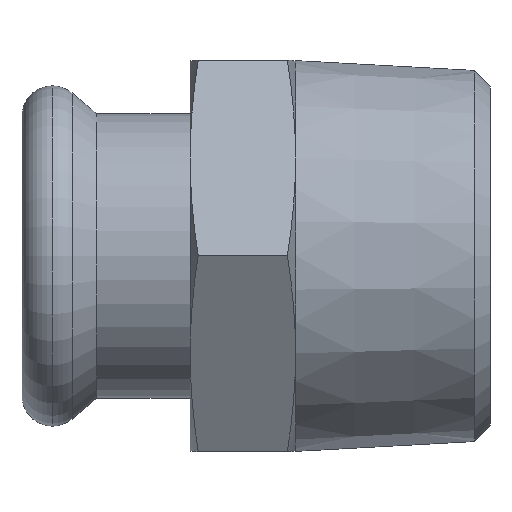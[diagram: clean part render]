
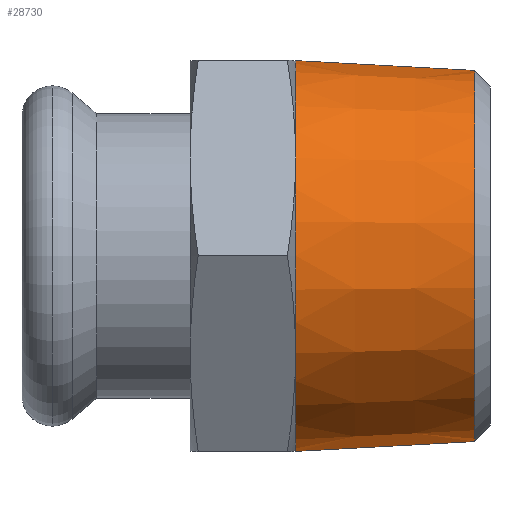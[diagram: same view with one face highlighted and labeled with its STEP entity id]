
A CAD part, top view. The second image highlights one B-rep face of the part: STEP entity #28730.
In plain terms, the highlighted conical face has half-angle 3.142 degrees and reference radius 21.5 mm.
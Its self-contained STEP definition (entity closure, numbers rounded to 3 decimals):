
#1050=CARTESIAN_POINT('',(-75.571,-453.455,
0.));
#1060=VERTEX_POINT('',#1050);
#3640=CARTESIAN_POINT('',(-75.571,-421.205,18.62)
);
#3650=VERTEX_POINT('',#3640);
#4990=CARTESIAN_POINT('',(-75.571,-442.705,18.62)
);
#5000=VERTEX_POINT('',#4990);
#5030=CARTESIAN_POINT('',(-75.571,-431.955,
0.));
#5040=DIRECTION('',(-1.,0.,0.));
#5050=DIRECTION('',(0.,-1.,0.));
#5060=AXIS2_PLACEMENT_3D('',#5030,#5040,#5050);
#5070=CIRCLE('',#5060,21.5);
#5080=EDGE_CURVE('',#1060,#5000,#5070,.T.);
#5220=CARTESIAN_POINT('',(-55.867,-452.374,
0.));
#5230=VERTEX_POINT('',#5220);
#5310=CARTESIAN_POINT('',(-55.867,-411.537,
0.));
#5320=VERTEX_POINT('',#5310);
#5350=CARTESIAN_POINT('',(-55.867,-431.955,
0.));
#5360=DIRECTION('',(-1.,0.,0.));
#5370=DIRECTION('',(0.,-1.,0.));
#5380=AXIS2_PLACEMENT_3D('',#5350,#5360,#5370);
#5390=CIRCLE('',#5380,20.419);
#5450=CARTESIAN_POINT('',(-75.571,-431.955,
0.));
#5460=DIRECTION('',(-1.,0.,0.));
#5470=DIRECTION('',(0.,-1.,0.));
#5480=AXIS2_PLACEMENT_3D('',#5450,#5460,#5470);
#5490=CONICAL_SURFACE('',#5480,21.5,0.055);
#5500=CARTESIAN_POINT('',(-75.571,-410.455,
0.));
#5510=DIRECTION('',(-0.998,0.055,
0.));
#5520=VECTOR('',#5510,1.);
#5530=LINE('',#5500,#5520);
#5540=CARTESIAN_POINT('',(-75.571,-410.455,
0.));
#5550=VERTEX_POINT('',#5540);
#5560=EDGE_CURVE('',#5320,#5550,#5530,.T.);
#5680=CARTESIAN_POINT('',(-75.571,-453.455,
0.));
#5690=DIRECTION('',(-0.998,-0.055,
0.));
#5700=VECTOR('',#5690,1.);
#5710=LINE('',#5680,#5700);
#5720=EDGE_CURVE('',#5230,#1060,#5710,.T.);
#13110=CARTESIAN_POINT('',(-75.571,-431.955,
0.));
#13120=DIRECTION('',(-1.,0.,0.));
#13130=DIRECTION('',(0.,-1.,0.));
#13140=AXIS2_PLACEMENT_3D('',#13110,#13120,#13130);
#13150=CIRCLE('',#13140,21.5);
#13160=EDGE_CURVE('',#5000,#3650,#13150,.T.);
#13230=EDGE_CURVE('',#3650,#5550,#5070,.T.);
#28570=EDGE_CURVE('',#5230,#5320,#5390,.T.);
#28650=ORIENTED_EDGE('',*,*,#13160,.F.);
#28660=ORIENTED_EDGE('',*,*,#13230,.F.);
#28670=ORIENTED_EDGE('',*,*,#5560,.T.);
#28680=ORIENTED_EDGE('',*,*,#28570,.T.);
#28690=ORIENTED_EDGE('',*,*,#5720,.F.);
#28700=ORIENTED_EDGE('',*,*,#5080,.F.);
#28710=EDGE_LOOP('',(#28700,#28690,#28680,#28670,#28660,#28650));
#28720=FACE_OUTER_BOUND('',#28710,.T.);
#28730=ADVANCED_FACE('',(#28720),#5490,.T.);
